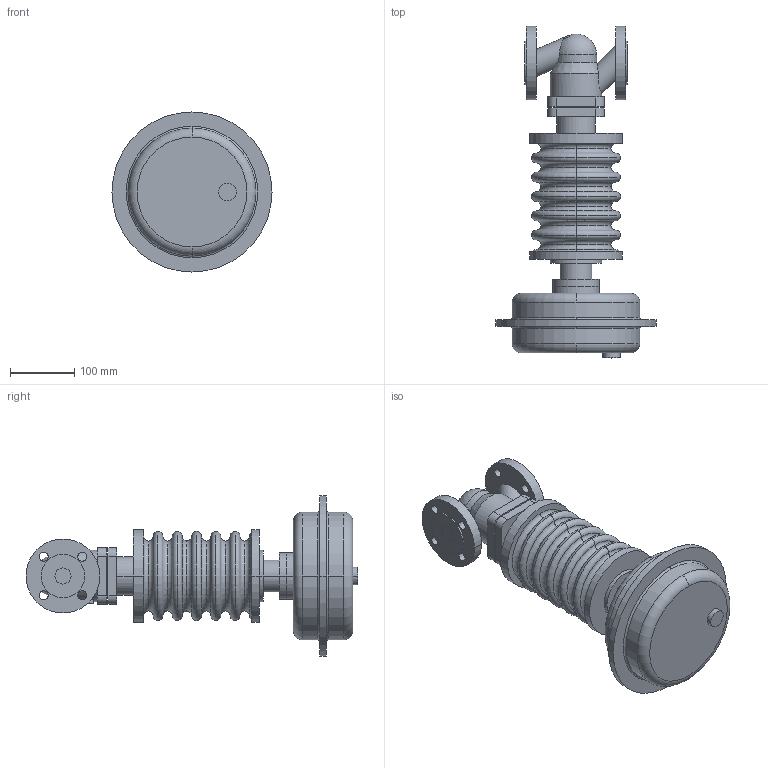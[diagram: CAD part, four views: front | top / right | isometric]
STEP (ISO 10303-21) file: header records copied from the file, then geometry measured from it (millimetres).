
FILE_DESCRIPTION( ( '' ), '1' );
FILE_NAME( 'F:/DE-SHS/TB/OR/04-Sonstiges/daten/files_3d/PREDU/PREDU-PN25-DMA250/c000005364.stp', '2014-06-03T11:14:53', ( '' ), ( '' ), ' ', ' ', ' ' );
FILE_SCHEMA( ( 'CONFIG_CONTROL_DESIGN' ) );
Length unit declared in the file: millimetre
Products named in the file (2): 1; 2
Bounding box: 249 x 516.5 x 249 mm (x, y, z)
Volume: 6725153.2 mm3; surface area: 427925.2 mm2
Topology: 2 solids, 2 shells, 173 faces, 413 edges, 265 vertices
Faces by surface type: cylinder 68, torus 54, plane 48, cone 2, sphere 1
Entity records: 5619 total; most frequent: CARTESIAN_POINT 1247, DIRECTION 1025, ORIENTED_EDGE 822, AXIS2_PLACEMENT_3D 449, EDGE_CURVE 411, CIRCLE 268, VERTEX_POINT 265, EDGE_LOOP 212
